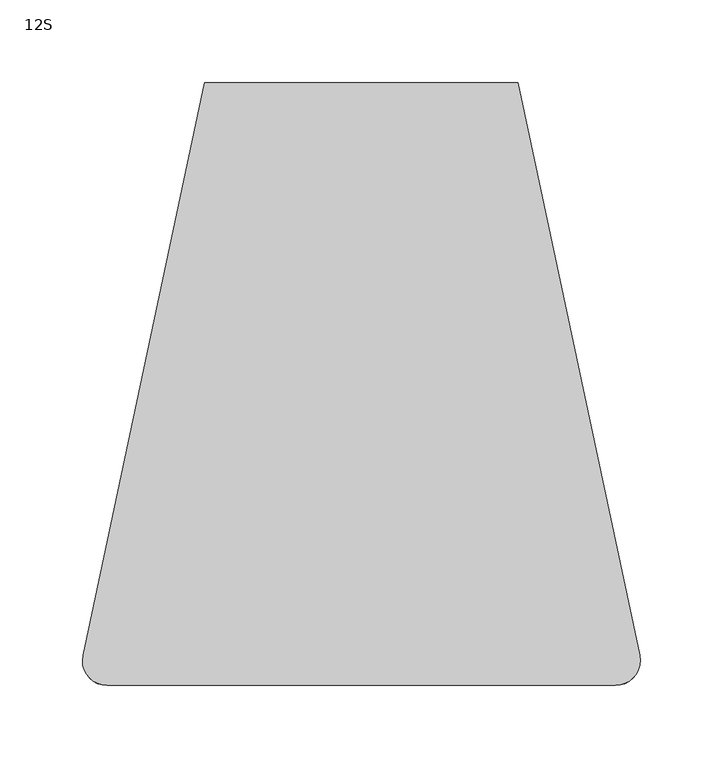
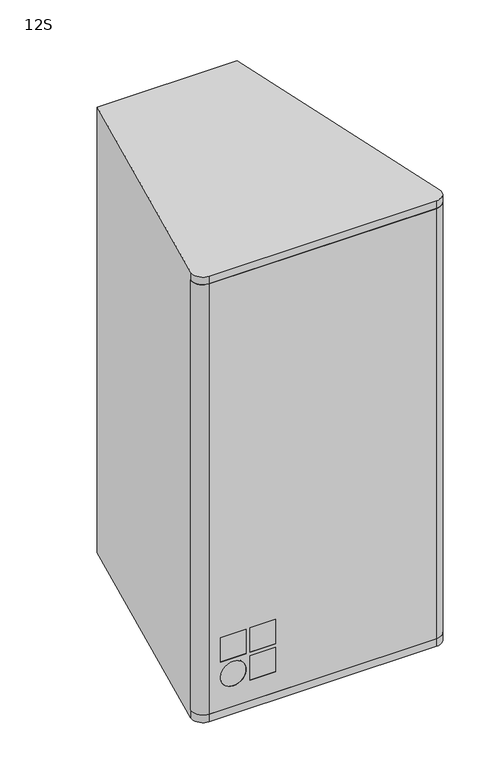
"""IFC4 building model written with IfcOpenShell, lengths in millimetres: proxy geometry, d&b xS-Series 12S Point Source : 12S."""

from ifc_helpers import new_model, si_unit, point, frame, frame_2d, origin, place, context, project, spatial, polyline, circle_curve, trimmed, segment, composite_curve, outline, extrude, source, transform, mapped, element, save
from ifc_brep_helpers import plane_surface, cylinder_surface, revolved_surface, advanced_brep


def proxy_12s_5242e5fb(model_context):
    return source(origin(), model_context, "Body", "SolidModel", [
        extrude(outline(composite_curve([segment(trimmed(circle_curve(frame_2d((153.9765427, -167.5)), 10.0), [point((163.4777986, -164.3813246))], [point((153.9765427, -177.5))], False, "CARTESIAN"), True, "CONTINUOUS"), segment(polyline([(153.9765427, -177.5), (-153.9765427, -177.5)]), True, "CONTINUOUS"), segment(trimmed(circle_curve(frame_2d((-153.9765427, -167.5)), 10.0), [point((-153.9765427, -177.5))], [point((-163.4777986, -164.3813246))], False, "CARTESIAN"), True, "CONTINUOUS"), segment(polyline([(-163.4777986, -164.3813246), (163.4777986, -164.3813246)]), True, "CONTINUOUS")], self_intersect=False)), frame((0.0, 0.0, -311.0), z_axis=(0.0, 0.0, 1.0), x_axis=(1.0, 0.0, 0.0)), (0.0, 0.0, 1.0), 622.0),
        advanced_brep(
        [(-103.6487567, -182.5, -204.0), (-103.6487567, -177.5, -204.0), (-103.6487567, -177.5, -239.0), (-103.6487567, -182.5, -239.0), (-138.6487567, -177.5, -239.0), (-138.6487567, -182.5, -239.0), (-138.6487567, -177.5, -204.0), (-138.6487567, -182.5, -204.0), (-63.6487567, -182.5, -204.0), (-63.6487567, -177.5, -204.0), (-63.6487567, -177.5, -239.0), (-63.6487567, -182.5, -239.0), (-98.6487567, -177.5, -239.0), (-98.6487567, -182.5, -239.0), (-98.6487567, -177.5, -204.0), (-98.6487567, -182.5, -204.0), (-63.6487567, -182.5, -244.0), (-63.6487567, -177.5, -244.0), (-63.6487567, -177.5, -279.0), (-63.6487567, -182.5, -279.0), (-98.6487567, -177.5, -279.0), (-98.6487567, -182.5, -279.0), (-98.6487567, -177.5, -244.0), (-98.6487567, -182.5, -244.0), (-121.1487567, -182.5, -279.0), (-121.1487567, -177.5, -279.0), (-121.1487567, -177.5, -244.0), (-121.1487567, -182.5, -244.0), (-163.4777986, -164.3813246, 308.0), (-168.6487567, -164.3813246, 308.0), (-153.9765427, -182.5, 308.0), (153.9765427, -182.5, 308.0), (168.6487567, -164.3813246, 308.0), (163.4777986, -164.3813246, 308.0), (153.9765427, -177.5, 308.0), (-153.9765427, -177.5, 308.0), (-163.4777986, -164.3813246, -308.0), (-153.9765427, -177.5, -308.0), (153.9765427, -177.5, -308.0), (163.4777986, -164.3813246, -308.0), (168.6487567, -164.3813246, -308.0), (153.9765427, -182.5, -308.0), (-153.9765427, -182.5, -308.0), (-168.6487567, -164.3813246, -308.0)],
        [
            (0, 1),
            (1, 2),
            (2, 3),
            (3, 0),
            (2, 4),
            (4, 5),
            (5, 3),
            (4, 6),
            (6, 7),
            (7, 5),
            (0, 7),
            (6, 1),
            (8, 9),
            (9, 10),
            (10, 11),
            (11, 8),
            (10, 12),
            (12, 13),
            (13, 11),
            (12, 14),
            (14, 15),
            (15, 13),
            (8, 15),
            (14, 9),
            (16, 17),
            (17, 18),
            (18, 19),
            (19, 16),
            (18, 20),
            (20, 21),
            (21, 19),
            (20, 22),
            (22, 23),
            (23, 21),
            (16, 23),
            (22, 17),
            (24, 25),
            (25, 26, circle_curve(frame((-121.1487567, -177.5, -261.5), z_axis=(0.0, 1.0, 0.0), x_axis=(0.0, 0.0, 1.0)), 17.5)),
            (26, 27),
            (27, 24, circle_curve(frame((-121.1487567, -182.5, -261.5), z_axis=(0.0, -1.0, 0.0), x_axis=(0.0, 0.0, 1.0)), 17.5)),
            (24, 27, circle_curve(frame((-121.1487567, -182.5, -261.5), z_axis=(0.0, -1.0, 0.0), x_axis=(0.0, 0.0, 1.0)), 17.5)),
            (26, 25, circle_curve(frame((-121.1487567, -177.5, -261.5), z_axis=(0.0, 1.0, 0.0), x_axis=(0.0, 0.0, 1.0)), 17.5)),
            (28, 29),
            (29, 30, circle_curve(frame((-153.9765427, -167.5, 308.0), z_axis=(0.0, 0.0, 1.0), x_axis=(0.0, -1.0, 0.0)), 15.0)),
            (30, 31),
            (31, 32, circle_curve(frame((153.9765427, -167.5, 308.0), z_axis=(0.0, 0.0, 1.0), x_axis=(0.0, -1.0, 0.0)), 15.0)),
            (32, 33),
            (33, 34, circle_curve(frame((153.9765427, -167.5, 308.0), z_axis=(0.0, 0.0, -1.0), x_axis=(0.0, -1.0, 0.0)), 10.0)),
            (34, 35),
            (35, 28, circle_curve(frame((-153.9765427, -167.5, 308.0), z_axis=(0.0, 0.0, -1.0), x_axis=(0.0, -1.0, 0.0)), 10.0)),
            (36, 37, circle_curve(frame((-153.9765427, -167.5, -308.0), z_axis=(0.0, 0.0, 1.0), x_axis=(0.0, -1.0, 0.0)), 10.0)),
            (37, 38),
            (38, 39, circle_curve(frame((153.9765427, -167.5, -308.0), z_axis=(0.0, 0.0, 1.0), x_axis=(0.0, -1.0, 0.0)), 10.0)),
            (39, 40),
            (40, 41, circle_curve(frame((153.9765427, -167.5, -308.0), z_axis=(0.0, 0.0, -1.0), x_axis=(0.0, -1.0, 0.0)), 15.0)),
            (41, 42),
            (42, 43, circle_curve(frame((-153.9765427, -167.5, -308.0), z_axis=(0.0, 0.0, -1.0), x_axis=(0.0, -1.0, 0.0)), 15.0)),
            (43, 36),
            (28, 36),
            (43, 29),
            (42, 30),
            (41, 31),
            (40, 32),
            (39, 33),
            (38, 34),
            (37, 35),
        ],
        [
            plane_surface(frame((-103.6487567, -182.5, -239.0), z_axis=(-1.0, 0.0, 0.0), x_axis=(0.0, 1.0, 0.0))),
            plane_surface(frame((-138.6487567, -182.5, -239.0), z_axis=(0.0, 0.0, 1.0), x_axis=(0.0, 1.0, 0.0))),
            plane_surface(frame((-138.6487567, -182.5, -204.0), z_axis=(1.0, 0.0, 0.0), x_axis=(0.0, 1.0, 0.0))),
            plane_surface(frame((-103.6487567, -182.5, -204.0), z_axis=(0.0, 0.0, -1.0), x_axis=(0.0, 1.0, 0.0))),
            plane_surface(frame((-63.6487567, -182.5, -239.0), z_axis=(-1.0, 0.0, 0.0), x_axis=(0.0, 1.0, 0.0))),
            plane_surface(frame((-98.6487567, -182.5, -239.0), z_axis=(0.0, 0.0, 1.0), x_axis=(0.0, 1.0, 0.0))),
            plane_surface(frame((-98.6487567, -182.5, -204.0), z_axis=(1.0, 0.0, 0.0), x_axis=(0.0, 1.0, 0.0))),
            plane_surface(frame((-63.6487567, -182.5, -204.0), z_axis=(0.0, 0.0, -1.0), x_axis=(0.0, 1.0, 0.0))),
            plane_surface(frame((-63.6487567, -182.5, -279.0), z_axis=(-1.0, 0.0, 0.0), x_axis=(0.0, 1.0, 0.0))),
            plane_surface(frame((-98.6487567, -182.5, -279.0), z_axis=(0.0, 0.0, 1.0), x_axis=(0.0, 1.0, 0.0))),
            plane_surface(frame((-98.6487567, -182.5, -244.0), z_axis=(1.0, 0.0, 0.0), x_axis=(0.0, 1.0, 0.0))),
            plane_surface(frame((-63.6487567, -182.5, -244.0), z_axis=(0.0, 0.0, -1.0), x_axis=(0.0, 1.0, 0.0))),
            revolved_surface(polyline([(-121.1487567, -182.5, -244.0), (-121.1487567, -177.5, -244.0)]), (-121.1487567, -149.7477083, -261.5), (0.0, -1.0, 0.0)),
            plane_surface(frame((-168.6487567, -164.3813246, 308.0), z_axis=(0.0, 0.0, 1.0), x_axis=(-1.0, 0.0, 0.0))),
            plane_surface(frame((-168.6487567, -164.3813246, -308.0), z_axis=(0.0, 0.0, -1.0), x_axis=(1.0, 0.0, 0.0))),
            plane_surface(frame((-163.4777986, -164.3813246, 308.0), z_axis=(0.0, 1.0, 0.0), x_axis=(0.0, 0.0, -1.0))),
            cylinder_surface(frame((-153.9765427, -167.5, -308.0), z_axis=(0.0, 0.0, 1.0), x_axis=(0.0, -1.0, 0.0)), 15.0),
            plane_surface(frame((-153.9765427, -182.5, 308.0), z_axis=(0.0, -1.0, 0.0), x_axis=(0.0, 0.0, -1.0))),
            cylinder_surface(frame((153.9765427, -167.5, -308.0), z_axis=(0.0, 0.0, 1.0), x_axis=(0.0, -1.0, 0.0)), 15.0),
            plane_surface(frame((168.6487567, -164.3813246, 308.0), z_axis=(0.0, 1.0, 0.0), x_axis=(0.0, 0.0, -1.0))),
            revolved_surface(polyline([(153.9765427, -177.5, -308.0), (153.9765427, -177.5, 308.0)]), (153.9765427, -167.5, -308.0), (0.0, 0.0, -1.0)),
            plane_surface(frame((153.9765427, -177.5, 308.0), z_axis=(0.0, 1.0, 0.0), x_axis=(0.0, 0.0, -1.0))),
            revolved_surface(polyline([(-153.9765427, -177.5, -308.0), (-153.9765427, -177.5, 308.0)]), (-153.9765427, -167.5, -308.0), (0.0, 0.0, -1.0)),
        ],
        [
            (0, [[1, 2, 3, 4]]),
            (1, [[-3, 5, 6, 7]]),
            (2, [[-6, 8, 9, 10]]),
            (3, [[-1, 11, -9, 12]]),
            (4, [[13, 14, 15, 16]]),
            (5, [[-15, 17, 18, 19]]),
            (6, [[-18, 20, 21, 22]]),
            (7, [[-13, 23, -21, 24]]),
            (8, [[25, 26, 27, 28]]),
            (9, [[-27, 29, 30, 31]]),
            (10, [[-30, 32, 33, 34]]),
            (11, [[-25, 35, -33, 36]]),
            (12, [[37, 38, 39, 40]]),
            (12, [[-37, 41, -39, 42]]),
            (13, [[43, 44, 45, 46, 47, 48, 49, 50]]),
            (14, [[51, 52, 53, 54, 55, 56, 57, 58]]),
            (15, [[-43, 59, -58, 60]]),
            (16, [[-44, -60, -57, 61]]),
            (17, [[-45, -61, -56, 62], [-4, -7, -10, -11], [-16, -19, -22, -23], [-28, -31, -34, -35], [-40, -41]]),
            (18, [[-46, -62, -55, 63]]),
            (19, [[-47, -63, -54, 64]]),
            (20, [[-48, -64, -53, 65]]),
            (21, [[-49, -65, -52, 66], [-2, -12, -8, -5], [-14, -24, -20, -17], [-26, -36, -32, -29], [-38, -42]]),
            (22, [[-50, -66, -51, -59]]),
        ],
    ),
        extrude(outline(polyline([(-103.6487567, -182.5), (-138.6487567, -182.5), (-138.6487567, -177.5), (-103.6487567, -177.5), (-103.6487567, -182.5)])), frame((0.0, 0.0, -239.0), z_axis=(0.0, 0.0, 1.0), x_axis=(1.0, 0.0, 0.0)), (0.0, 0.0, 1.0), 35.0),
        extrude(outline(polyline([(-63.6487567, -182.5), (-98.6487567, -182.5), (-98.6487567, -177.5), (-63.6487567, -177.5), (-63.6487567, -182.5)])), frame((0.0, 0.0, -239.0), z_axis=(0.0, 0.0, 1.0), x_axis=(1.0, 0.0, 0.0)), (0.0, 0.0, 1.0), 35.0),
        extrude(outline(polyline([(-63.6487567, -182.5), (-98.6487567, -182.5), (-98.6487567, -177.5), (-63.6487567, -177.5), (-63.6487567, -182.5)])), frame((0.0, 0.0, -279.0), z_axis=(0.0, 0.0, 1.0), x_axis=(1.0, 0.0, 0.0)), (0.0, 0.0, 1.0), 35.0),
        extrude(outline(composite_curve([segment(trimmed(circle_curve(frame_2d((-261.5, -121.1487567)), 17.5), [point((-279.0, -121.1487567))], [point((-244.0, -121.1487567))], False, "CARTESIAN"), True, "CONTINUOUS"), segment(trimmed(circle_curve(frame_2d((-261.5, -121.1487567)), 17.5), [point((-244.0, -121.1487567))], [point((-279.0, -121.1487567))], False, "CARTESIAN"), True, "CONTINUOUS")], self_intersect=False)), frame((0.0, -182.5, 0.0), z_axis=(0.0, 1.0, 0.0), x_axis=(0.0, 0.0, 1.0)), (0.0, 0.0, 1.0), 5.0),
        advanced_brep(
        [(-94.916855, 182.5, -319.0), (94.916855, 182.5, -319.0), (168.6487567, -164.3813246, -319.0), (153.9765427, -182.5, -319.0), (-153.9765427, -182.5, -319.0), (-168.6487567, -164.3813246, -319.0), (-94.916855, 182.5, 319.0), (-168.6487567, -164.3813246, 319.0), (-153.9765427, -182.5, 319.0), (153.9765427, -182.5, 319.0), (168.6487567, -164.3813246, 319.0), (94.916855, 182.5, 319.0), (-35.0, 179.5, 131.0), (-26.0, 179.5, 140.0), (26.0, 179.5, 140.0), (35.0, 179.5, 131.0), (35.0, 179.5, 39.0), (26.0, 179.5, 30.0), (-26.0, 179.5, 30.0), (-35.0, 179.5, 39.0), (-25.9695321, 179.5, 48.5), (-13.9695321, 179.5, 36.5), (13.9695321, 179.5, 36.5), (25.9695321, 179.5, 48.5), (25.9695321, 179.5, 122.5), (13.9695321, 179.5, 134.5), (-13.9695321, 179.5, 134.5), (-25.9695321, 179.5, 122.5), (-35.0, 182.5, 131.0), (-26.0, 182.5, 140.0), (26.0, 182.5, 140.0), (35.0, 182.5, 131.0), (35.0, 182.5, 39.0), (26.0, 182.5, 30.0), (-26.0, 182.5, 30.0), (-35.0, 182.5, 39.0), (-13.9695321, 160.5, 36.5), (-25.9695321, 160.5, 48.5), (-25.9695321, 160.5, 122.5), (-13.9695321, 160.5, 134.5), (13.9695321, 160.5, 134.5), (25.9695321, 160.5, 122.5), (25.9695321, 160.5, 48.5), (13.9695321, 160.5, 36.5), (168.6487567, -164.3813246, 308.0), (153.9765427, -182.5, 308.0), (-153.9765427, -182.5, 308.0), (-168.6487567, -164.3813246, 308.0), (-168.6487567, -164.3813246, -308.0), (-153.9765427, -182.5, -308.0), (153.9765427, -182.5, -308.0), (168.6487567, -164.3813246, -308.0)],
        [
            (0, 1),
            (1, 2),
            (2, 3, circle_curve(frame((153.9765427, -167.5, -319.0), z_axis=(0.0, 0.0, -1.0), x_axis=(0.0, -1.0, 0.0)), 15.0)),
            (3, 4),
            (4, 5, circle_curve(frame((-153.9765427, -167.5, -319.0), z_axis=(0.0, 0.0, -1.0), x_axis=(0.0, -1.0, 0.0)), 15.0)),
            (5, 0),
            (6, 7),
            (7, 8, circle_curve(frame((-153.9765427, -167.5, 319.0), z_axis=(0.0, 0.0, 1.0), x_axis=(0.0, -1.0, 0.0)), 15.0)),
            (8, 9),
            (9, 10, circle_curve(frame((153.9765427, -167.5, 319.0), z_axis=(0.0, 0.0, 1.0), x_axis=(0.0, -1.0, 0.0)), 15.0)),
            (10, 11),
            (11, 6),
            (12, 13, circle_curve(frame((-26.0, 179.5, 131.0), z_axis=(0.0, 1.0, 0.0), x_axis=(-1.0, 0.0, 0.0)), 9.0)),
            (13, 14),
            (14, 15, circle_curve(frame((26.0, 179.5, 131.0), z_axis=(0.0, 1.0, 0.0), x_axis=(-1.0, 0.0, 0.0)), 9.0)),
            (15, 16),
            (16, 17, circle_curve(frame((26.0, 179.5, 39.0), z_axis=(0.0, 1.0, 0.0), x_axis=(-1.0, 0.0, 0.0)), 9.0)),
            (17, 18),
            (18, 19, circle_curve(frame((-26.0, 179.5, 39.0), z_axis=(0.0, 1.0, 0.0), x_axis=(-1.0, 0.0, 0.0)), 9.0)),
            (19, 12),
            (20, 21, circle_curve(frame((-13.9695321, 179.5, 48.5), z_axis=(0.0, -1.0, 0.0), x_axis=(-1.0, 0.0, 0.0)), 12.0)),
            (21, 22),
            (22, 23, circle_curve(frame((13.9695321, 179.5, 48.5), z_axis=(0.0, -1.0, 0.0), x_axis=(-1.0, 0.0, 0.0)), 12.0)),
            (23, 24),
            (24, 25, circle_curve(frame((13.9695321, 179.5, 122.5), z_axis=(0.0, -1.0, 0.0), x_axis=(-1.0, 0.0, 0.0)), 12.0)),
            (25, 26),
            (26, 27, circle_curve(frame((-13.9695321, 179.5, 122.5), z_axis=(0.0, -1.0, 0.0), x_axis=(-1.0, 0.0, 0.0)), 12.0)),
            (27, 20),
            (12, 28),
            (28, 29, circle_curve(frame((-26.0, 182.5, 131.0), z_axis=(0.0, 1.0, 0.0), x_axis=(-1.0, 0.0, 0.0)), 9.0)),
            (29, 13),
            (29, 30),
            (30, 14),
            (30, 31, circle_curve(frame((26.0, 182.5, 131.0), z_axis=(0.0, 1.0, 0.0), x_axis=(-1.0, 0.0, 0.0)), 9.0)),
            (31, 15),
            (31, 32),
            (32, 16),
            (32, 33, circle_curve(frame((26.0, 182.5, 39.0), z_axis=(0.0, 1.0, 0.0), x_axis=(-1.0, 0.0, 0.0)), 9.0)),
            (33, 17),
            (33, 34),
            (34, 18),
            (34, 35, circle_curve(frame((-26.0, 182.5, 39.0), z_axis=(0.0, 1.0, 0.0), x_axis=(-1.0, 0.0, 0.0)), 9.0)),
            (35, 19),
            (35, 28),
            (36, 37, circle_curve(frame((-13.9695321, 160.5, 48.5), z_axis=(0.0, 1.0, 0.0), x_axis=(-1.0, 0.0, 0.0)), 12.0)),
            (37, 38),
            (38, 39, circle_curve(frame((-13.9695321, 160.5, 122.5), z_axis=(0.0, 1.0, 0.0), x_axis=(-1.0, 0.0, 0.0)), 12.0)),
            (39, 40),
            (40, 41, circle_curve(frame((13.9695321, 160.5, 122.5), z_axis=(0.0, 1.0, 0.0), x_axis=(-1.0, 0.0, 0.0)), 12.0)),
            (41, 42),
            (42, 43, circle_curve(frame((13.9695321, 160.5, 48.5), z_axis=(0.0, 1.0, 0.0), x_axis=(-1.0, 0.0, 0.0)), 12.0)),
            (43, 36),
            (44, 45, circle_curve(frame((153.9765427, -167.5, 308.0), z_axis=(0.0, 0.0, -1.0), x_axis=(0.0, -1.0, 0.0)), 15.0)),
            (45, 46),
            (46, 47, circle_curve(frame((-153.9765427, -167.5, 308.0), z_axis=(0.0, 0.0, -1.0), x_axis=(0.0, -1.0, 0.0)), 15.0)),
            (47, 44),
            (48, 49, circle_curve(frame((-153.9765427, -167.5, -308.0), z_axis=(0.0, 0.0, 1.0), x_axis=(0.0, -1.0, 0.0)), 15.0)),
            (49, 50),
            (50, 51, circle_curve(frame((153.9765427, -167.5, -308.0), z_axis=(0.0, 0.0, 1.0), x_axis=(0.0, -1.0, 0.0)), 15.0)),
            (51, 48),
            (36, 21),
            (20, 37),
            (27, 38),
            (26, 39),
            (25, 40),
            (24, 41),
            (23, 42),
            (22, 43),
            (0, 6),
            (11, 1),
            (10, 44),
            (44, 51),
            (51, 2),
            (47, 48),
            (5, 48),
            (47, 7),
            (46, 8),
            (45, 9),
            (4, 49),
            (3, 50),
        ],
        [
            plane_surface(frame((-94.916855, 182.5, -319.0), z_axis=(0.0, 0.0, -1.0), x_axis=(1.0, 0.0, 0.0))),
            plane_surface(frame((-94.916855, 182.5, 319.0), z_axis=(0.0, 0.0, 1.0), x_axis=(-1.0, 0.0, 0.0))),
            plane_surface(frame((-35.0, 179.5, 131.0), z_axis=(0.0, 1.0, 0.0), x_axis=(0.0, 0.0, -1.0))),
            revolved_surface(polyline([(-35.0, 182.5, 131.0), (-35.0, 179.5, 131.0)]), (-26.0, 179.5, 131.0), (0.0, 1.0, 0.0)),
            plane_surface(frame((-26.0, 182.5, 140.0), z_axis=(0.0, 0.0, -1.0), x_axis=(0.0, -1.0, 0.0))),
            revolved_surface(polyline([(17.0, 182.5, 131.0), (17.0, 179.5, 131.0)]), (26.0, 179.5, 131.0), (0.0, 1.0, 0.0)),
            plane_surface(frame((35.0, 182.5, 131.0), z_axis=(-1.0, 0.0, 0.0), x_axis=(0.0, -1.0, 0.0))),
            revolved_surface(polyline([(17.0, 182.5, 39.0), (17.0, 179.5, 39.0)]), (26.0, 179.5, 39.0), (0.0, 1.0, 0.0)),
            plane_surface(frame((26.0, 182.5, 30.0), z_axis=(0.0, 0.0, 1.0), x_axis=(0.0, -1.0, 0.0))),
            revolved_surface(polyline([(-35.0, 182.5, 39.0), (-35.0, 179.5, 39.0)]), (-26.0, 179.5, 39.0), (0.0, 1.0, 0.0)),
            plane_surface(frame((-35.0, 182.5, 39.0), z_axis=(1.0, 0.0, 0.0), x_axis=(0.0, -1.0, 0.0))),
            plane_surface(frame((-25.9695321, 160.5, 48.5), z_axis=(0.0, 1.0, 0.0), x_axis=(0.0, 0.0, -1.0))),
            plane_surface(frame((-168.6487567, -164.3813246, 308.0), z_axis=(0.0, 0.0, -1.0), x_axis=(1.0, 0.0, 0.0))),
            plane_surface(frame((153.9765427, -177.5, -308.0), z_axis=(0.0, 0.0, 1.0), x_axis=(1.0, 0.0, 0.0))),
            revolved_surface(polyline([(-25.969532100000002, 179.5, 48.5), (-25.969532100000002, 160.5, 48.5)]), (-13.9695321, 160.5, 48.5), (0.0, 1.0, 0.0)),
            plane_surface(frame((-25.9695321, 179.5, 48.5), z_axis=(1.0, 0.0, 0.0), x_axis=(0.0, -1.0, 0.0))),
            revolved_surface(polyline([(-25.969532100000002, 179.5, 122.5), (-25.969532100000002, 160.5, 122.5)]), (-13.9695321, 160.5, 122.5), (0.0, 1.0, 0.0)),
            plane_surface(frame((-13.9695321, 179.5, 134.5), z_axis=(0.0, 0.0, -1.0), x_axis=(0.0, -1.0, 0.0))),
            revolved_surface(polyline([(1.9695321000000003, 179.5, 122.5), (1.9695321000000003, 160.5, 122.5)]), (13.9695321, 160.5, 122.5), (0.0, 1.0, 0.0)),
            plane_surface(frame((25.9695321, 179.5, 122.5), z_axis=(-1.0, 0.0, 0.0), x_axis=(0.0, -1.0, 0.0))),
            revolved_surface(polyline([(1.9695321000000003, 179.5, 48.5), (1.9695321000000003, 160.5, 48.5)]), (13.9695321, 160.5, 48.5), (0.0, 1.0, 0.0)),
            plane_surface(frame((13.9695321, 179.5, 36.5), z_axis=(0.0, 0.0, 1.0), x_axis=(0.0, -1.0, 0.0))),
            plane_surface(frame((-94.916855, 182.5, -319.0), z_axis=(0.0, 1.0, 0.0), x_axis=(0.0, 0.0, 1.0))),
            plane_surface(frame((94.916855, 182.5, -319.0), z_axis=(0.9781476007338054, 0.20791169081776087, 0.0), x_axis=(0.0, 0.0, 1.0))),
            plane_surface(frame((168.6487567, -164.3813246, -319.0), z_axis=(0.0, -1.0, 0.0), x_axis=(0.0, 0.0, 1.0))),
            plane_surface(frame((-168.6487567, -164.3813246, -319.0), z_axis=(-0.9781476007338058, 0.20791169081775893, 0.0), x_axis=(0.0, 0.0, 1.0))),
            cylinder_surface(frame((-153.9765427, -167.5, 308.0), z_axis=(0.0, 0.0, 1.0), x_axis=(0.0, -1.0, 0.0)), 15.0),
            plane_surface(frame((-153.9765427, -182.5, 319.0), z_axis=(0.0, -1.0, 0.0), x_axis=(0.0, 0.0, -1.0))),
            cylinder_surface(frame((153.9765427, -167.5, 308.0), z_axis=(0.0, 0.0, 1.0), x_axis=(0.0, -1.0, 0.0)), 15.0),
            cylinder_surface(frame((-153.9765427, -167.5, -319.0), z_axis=(0.0, 0.0, 1.0), x_axis=(0.0, -1.0, 0.0)), 15.0),
            plane_surface(frame((-153.9765427, -182.5, -308.0), z_axis=(0.0, -1.0, 0.0), x_axis=(0.0, 0.0, -1.0))),
            cylinder_surface(frame((153.9765427, -167.5, -319.0), z_axis=(0.0, 0.0, 1.0), x_axis=(0.0, -1.0, 0.0)), 15.0),
        ],
        [
            (0, [[1, 2, 3, 4, 5, 6]]),
            (1, [[7, 8, 9, 10, 11, 12]]),
            (2, [[13, 14, 15, 16, 17, 18, 19, 20], [21, 22, 23, 24, 25, 26, 27, 28]]),
            (3, [[-13, 29, 30, 31]]),
            (4, [[-14, -31, 32, 33]]),
            (5, [[-15, -33, 34, 35]]),
            (6, [[-16, -35, 36, 37]]),
            (7, [[-17, -37, 38, 39]]),
            (8, [[-18, -39, 40, 41]]),
            (9, [[-19, -41, 42, 43]]),
            (10, [[-20, -43, 44, -29]]),
            (11, [[45, 46, 47, 48, 49, 50, 51, 52]]),
            (12, [[53, 54, 55, 56]]),
            (13, [[57, 58, 59, 60]]),
            (14, [[-45, 61, -21, 62]]),
            (15, [[-46, -62, -28, 63]]),
            (16, [[-47, -63, -27, 64]]),
            (17, [[-48, -64, -26, 65]]),
            (18, [[-49, -65, -25, 66]]),
            (19, [[-50, -66, -24, 67]]),
            (20, [[-51, -67, -23, 68]]),
            (21, [[-52, -68, -22, -61]]),
            (22, [[-1, 69, -12, 70], [-30, -44, -42, -40, -38, -36, -34, -32]]),
            (23, [[-2, -70, -11, 71, 72, 73]]),
            (24, [[-56, 74, -60, -72]]),
            (25, [[-6, 75, -74, 76, -7, -69]]),
            (26, [[-8, -76, -55, 77]]),
            (27, [[-9, -77, -54, 78]]),
            (28, [[-10, -78, -53, -71]]),
            (29, [[-57, -75, -5, 79]]),
            (30, [[-58, -79, -4, 80]]),
            (31, [[-59, -80, -3, -73]]),
        ],
    ),
    ])


if __name__ == "__main__":
    model = new_model("IFC4")
    model_context = context("Model", 3, world=origin())
    ifc_project = project(units=[si_unit("LENGTHUNIT", "METRE", prefix="MILLI")], contexts=[model_context])
    site = spatial("IfcSite", under=ifc_project)
    building = spatial("IfcBuilding", under=site)
    placement = place(None, origin())
    proxy_12s_shape = proxy_12s_5242e5fb(model_context)
    element("IfcBuildingElementProxy", 1, Name="d&b xS-Series 12S Point Source : 12S", ObjectType="d&b xS-Series 12S Point Source : 12S", at=placement, inside=building, context=model_context, shape_type="MappedRepresentation", body=[
        mapped(proxy_12s_shape, transform((0.0, 0.0, 0.0), x_axis=(1.0, 0.0, 0.0), y_axis=(0.0, 1.0, 0.0), z_axis=(0.0, 0.0, 1.0))),
    ])
    save(model, "model.ifc")
